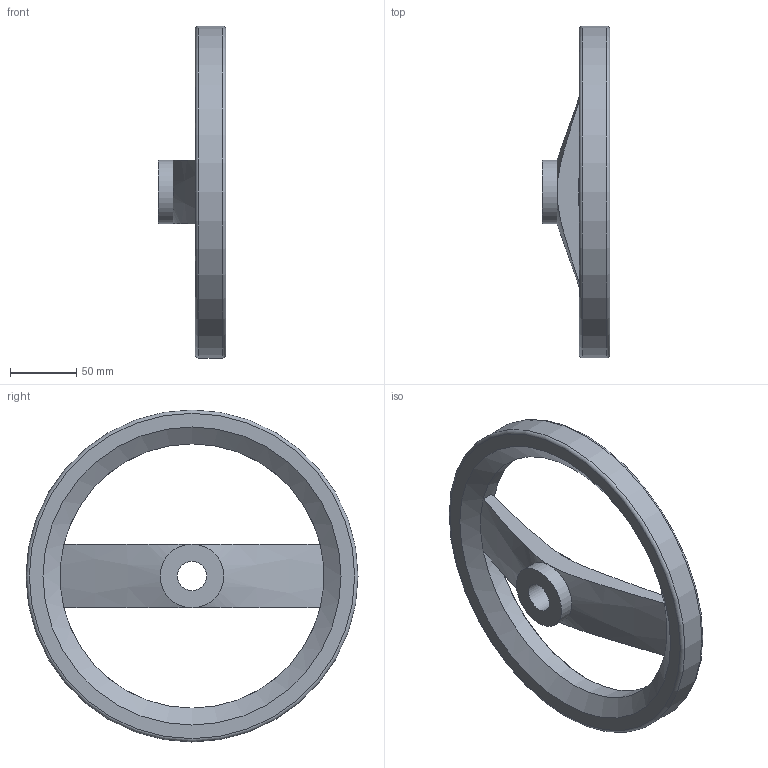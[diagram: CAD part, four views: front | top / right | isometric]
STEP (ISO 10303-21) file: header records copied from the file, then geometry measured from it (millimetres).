
FILE_DESCRIPTION( ( 'STEP AP203' ), '1' );
FILE_NAME( 'C:/Temp/Ganter_Step_05_03_2020/data/1_3/gn_324/gn_324_b/gn_324_b_a/Handwheel, matt black GN 324-250-B22-A.stp', '2020-03-05T10:32:55', ( 'License CC BY-ND 4.0' ), ( 'CADENAS' ), ' ', 'PARTsolutions', ' ' );
FILE_SCHEMA( ( 'CONFIG_CONTROL_DESIGN' ) );
Length unit declared in the file: millimetre
Products named in the file (1): _Handwheel, matt black GN 324-250-B22-A
Bounding box: 51 x 250 x 250 mm (x, y, z)
Volume: 508323.3 mm3; surface area: 89297.5 mm2
Topology: 1 solids, 1 shells, 19 faces, 43 edges, 24 vertices
Faces by surface type: plane 6, cone 6, cylinder 5, torus 2
Full cylindrical faces by diameter (mm): 22 x1, 48 x2, 199 x1, 250 x1
Entity records: 668 total; most frequent: CARTESIAN_POINT 232, DIRECTION 86, ORIENTED_EDGE 66, AXIS2_PLACEMENT_3D 41, EDGE_CURVE 33, EDGE_LOOP 32, FACE_OUTER_BOUND 26, VERTEX_POINT 23
